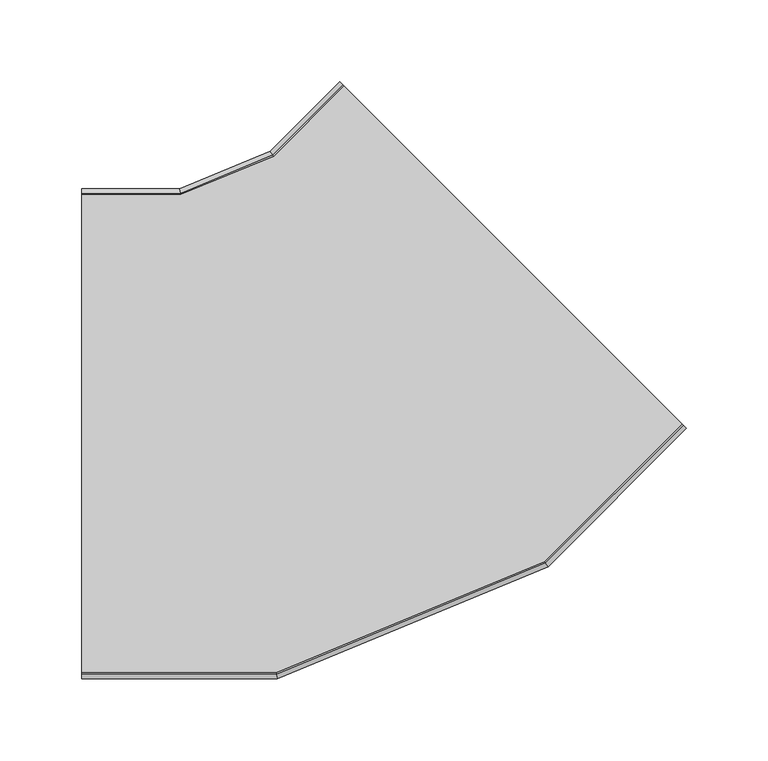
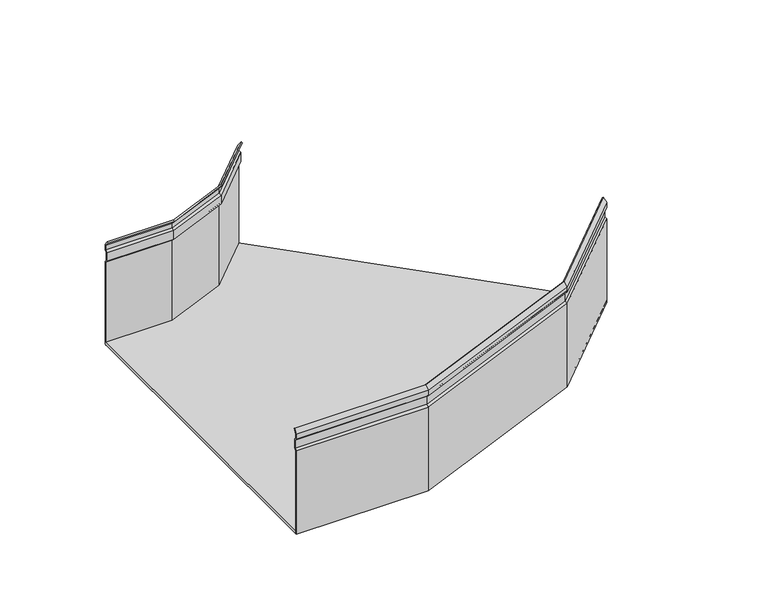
"""IFC4 building model written with IfcOpenShell, lengths in millimetres: cable carrier fitting geometry, CPERC45_Horizontal_Bend-Basortray : Basortray CPERC45-GS."""

import ifcopenshell
import ifcopenshell.guid

model = None  # the IFC model being written
_history = None  # IfcOwnerHistory: only IFC2X3 demands one
_inside = {}  # id of a spatial element -> (the spatial element, [elements in it])
_under = {}  # id of a project, library or spatial element -> (it, [spatial elements below it])
_declared = {}  # id of a project -> (the project, [libraries it declares])
_typed = {}  # id of a type object -> (the type object, [elements of that type])
_made_of = {}  # id of a material, layer set ... -> (it, [elements and type objects made of it])


def new_model(schema):
    """Start an empty IFC model of exactly this schema.

    Asked for "IFC4X3", IfcOpenShell would pick the latest addendum, in which some entities
    have other attributes; the version numbers below select the first issue.
    IFC2X3 requires an IfcOwnerHistory on every rooted entity: one is made here for all.
    """
    global model, _history
    if schema == "IFC4X3":
        model = ifcopenshell.file(schema_version=(4, 3, 0, 0))
    else:
        model = ifcopenshell.file(schema=schema)
    _inside.clear()
    _under.clear()
    _declared.clear()
    _typed.clear()
    _made_of.clear()
    _history = None
    if model.schema == "IFC2X3":
        org = make("IfcOrganization", Name="unknown")
        user = make(
            "IfcPersonAndOrganization",
            ThePerson=make("IfcPerson", FamilyName="unknown"),
            TheOrganization=org,
        )
        app = make(
            "IfcApplication",
            ApplicationDeveloper=org,
            Version="unknown",
            ApplicationFullName="unknown",
            ApplicationIdentifier="unknown",
        )
        _history = make(
            "IfcOwnerHistory",
            OwningUser=user,
            OwningApplication=app,
            ChangeAction="ADDED",
            CreationDate=0,
        )
    return model


def make(cls, **values):
    """One entity of the class cls with the attributes given. An attribute that is None is left unset."""
    return model.create_entity(
        cls, **{name: value for name, value in values.items() if value is not None}
    )


def rooted(cls, **values):
    """An entity with a GlobalId (a new one), such as an element, a storey or a relation."""
    return make(cls, GlobalId=ifcopenshell.guid.new(), OwnerHistory=_history, **values)


def si_unit(unit_type, name, prefix=None):
    """IfcSIUnit, for example si_unit("LENGTHUNIT", "METRE", prefix="MILLI")."""
    return make("IfcSIUnit", UnitType=unit_type, Prefix=prefix, Name=name)


def assignment(units):
    """IfcUnitAssignment: the units of a project."""
    return None if units is None else make("IfcUnitAssignment", Units=units)


def point(xyz):
    """IfcCartesianPoint."""
    return None if xyz is None else make("IfcCartesianPoint", Coordinates=xyz)


def direction(xyz):
    """IfcDirection."""
    return None if xyz is None else make("IfcDirection", DirectionRatios=xyz)


def frame(location, z_axis=None, x_axis=None):
    """IfcAxis2Placement3D, a coordinate frame: its origin and axes. An axis left out is left unset."""
    return make(
        "IfcAxis2Placement3D",
        Location=point(location),
        Axis=direction(z_axis),
        RefDirection=direction(x_axis),
    )


def origin():
    """The frame at (0, 0, 0) with its axes left unset."""
    return frame((0.0, 0.0, 0.0))


def place(relative_to, where):
    """IfcLocalPlacement: puts the frame where relative to a parent placement (None: the world)."""
    return make(
        "IfcLocalPlacement", PlacementRelTo=relative_to, RelativePlacement=where
    )


def context(
    kind, dimensions, precision=None, world=None, true_north=None, identifier=None
):
    """IfcGeometricRepresentationContext, for example the 3D "Model" context."""
    return make(
        "IfcGeometricRepresentationContext",
        ContextIdentifier=identifier,
        ContextType=kind,
        CoordinateSpaceDimension=dimensions,
        Precision=precision,
        WorldCoordinateSystem=world,
        TrueNorth=true_north,
    )


def project(units=None, contexts=None):
    """IfcProject with its units and contexts."""
    return rooted(
        "IfcProject",
        Name="project",
        RepresentationContexts=contexts,
        UnitsInContext=assignment(units),
    )


def spatial(cls, under=None, at=None, **own):
    """A site, building, storey or space (cls), placed at a placement, below another one or the project."""
    s = rooted(cls, ObjectPlacement=at, **own)
    if under is not None:
        _under.setdefault(under.id(), (under, []))[1].append(s)
    return s


def polyline(points):
    """IfcPolyline through the points."""
    return make("IfcPolyline", Points=[point(p) for p in points])


def outline(outer, holes=None, kind="AREA"):
    """IfcArbitraryClosedProfileDef: a profile drawn as a closed curve; with holes, ...WithVoids."""
    if holes is None:
        return make("IfcArbitraryClosedProfileDef", ProfileType=kind, OuterCurve=outer)
    return make(
        "IfcArbitraryProfileDefWithVoids",
        ProfileType=kind,
        OuterCurve=outer,
        InnerCurves=holes,
    )


def extrude(swept, where, along, depth):
    """IfcExtrudedAreaSolid: the profile swept, set in the frame where, extruded along a direction by depth."""
    return make(
        "IfcExtrudedAreaSolid",
        SweptArea=swept,
        Position=where,
        ExtrudedDirection=direction(along),
        Depth=depth,
    )


def faces_of(points, faces, orient=None, outer=None):
    """IfcFace entities. A face is a list of loops; a loop is a list of indices into points, from 0.

    orient and outer hold one flag for each loop. By default every Orientation is true, the
    first loop of a face is its IfcFaceOuterBound and the others are IfcFaceBound.
    """
    made = []
    for i, loops in enumerate(faces):
        bounds = []
        for j, loop in enumerate(loops):
            is_outer = j == 0 if outer is None else outer[i][j]
            bounds.append(
                make(
                    "IfcFaceOuterBound" if is_outer else "IfcFaceBound",
                    Bound=make("IfcPolyLoop", Polygon=[points[k] for k in loop]),
                    Orientation=True if orient is None else orient[i][j],
                )
            )
        made.append(make("IfcFace", Bounds=bounds))
    return made


def faceted_brep(points, faces, orient=None, outer=None, voids=None):
    """IfcFacetedBrep: a solid bounded by flat faces; with voids (closed shells), ...WithVoids."""
    shared = [point(p) for p in points]
    hull = make("IfcClosedShell", CfsFaces=faces_of(shared, faces, orient, outer))
    if voids is None:
        return make("IfcFacetedBrep", Outer=hull)
    return make(
        "IfcFacetedBrepWithVoids",
        Outer=hull,
        Voids=[
            make(cls, CfsFaces=faces_of(shared, fs, o, b)) for cls, fs, o, b in voids
        ],
    )


def shape(context_of_items, identifier, shape_type, items):
    """IfcShapeRepresentation: the items that make up one representation, for example the "Body"."""
    return make(
        "IfcShapeRepresentation",
        ContextOfItems=context_of_items,
        RepresentationIdentifier=identifier,
        RepresentationType=shape_type,
        Items=items,
    )


def source(mapping_origin, context_of_items, identifier, shape_type, items):
    """IfcRepresentationMap: a shape defined once, which mapped items show again and again."""
    return make(
        "IfcRepresentationMap",
        MappingOrigin=mapping_origin,
        MappedRepresentation=shape(context_of_items, identifier, shape_type, items),
    )


def transform(
    local_origin,
    x_axis=None,
    y_axis=None,
    z_axis=None,
    scale=None,
    scale2=None,
    scale3=None,
    uniform=True,
):
    """IfcCartesianTransformationOperator3D, or its non-uniform kind. x_axis, y_axis, z_axis: its Axis1, 2, 3."""
    if uniform:
        return make(
            "IfcCartesianTransformationOperator3D",
            Axis1=direction(x_axis),
            Axis2=direction(y_axis),
            LocalOrigin=point(local_origin),
            Scale=scale,
            Axis3=direction(z_axis),
        )
    return make(
        "IfcCartesianTransformationOperator3DnonUniform",
        Axis1=direction(x_axis),
        Axis2=direction(y_axis),
        LocalOrigin=point(local_origin),
        Scale=scale,
        Axis3=direction(z_axis),
        Scale2=scale2,
        Scale3=scale3,
    )


def mapped(mapping_source, mapping_target):
    """IfcMappedItem: shows the shape of a source again, moved by a transform."""
    return make(
        "IfcMappedItem", MappingSource=mapping_source, MappingTarget=mapping_target
    )


def made_of(thing, what):
    """Note that an element or type object is made of a material, layer set ...; save() writes the relation."""
    if what is not None:
        _made_of.setdefault(what.id(), (what, []))[1].append(thing)
    return thing


def element(
    cls,
    number,
    at=None,
    inside=None,
    cuts=None,
    type_object=None,
    material=None,
    context=None,
    identifier="Body",
    shape_type=None,
    held_by="IfcProductDefinitionShape",
    body=None,
    shapes=None,
    **own,
):
    """One element of the class cls, such as IfcWall. Its Tag is "e" and its number.

    at: its placement. inside: the storey or other place that contains it. cuts: it is an
    opening in that element (IfcRelVoidsElement). A single representation is given by context,
    identifier, shape_type and body (its items); several are given by shapes. held_by: the class
    of the entity that holds the representations. save() writes the other relations.
    """
    e = rooted(cls, Tag="e%d" % number, ObjectPlacement=at, **own)
    if body is not None:
        shapes = [shape(context, identifier, shape_type, body)]
    if shapes is not None:
        e.Representation = make(held_by, Representations=shapes)
    if inside is not None:
        _inside.setdefault(inside.id(), (inside, []))[1].append(e)
    if cuts is not None:
        rooted(
            "IfcRelVoidsElement", RelatingBuildingElement=cuts, RelatedOpeningElement=e
        )
    if type_object is not None:
        _typed.setdefault(type_object.id(), (type_object, []))[1].append(e)
    return made_of(e, material)


def aggregate(whole, parts):
    """IfcRelAggregates: a whole, such as a stair, and the parts it consists of."""
    return rooted("IfcRelAggregates", RelatingObject=whole, RelatedObjects=parts)


def save(model, path):
    """Write the relations noted so far, then the file.

    IfcRelAggregates (storeys below a building ...), IfcRelContainedInSpatialStructure (elements
    in a storey), IfcRelDefinesByType, IfcRelAssociatesMaterial and IfcRelDeclares: one each for
    every whole, place, type object, material and project.
    """
    for whole, parts in _under.values():
        aggregate(whole, parts)
    for where, things in _inside.values():
        rooted(
            "IfcRelContainedInSpatialStructure",
            RelatedElements=things,
            RelatingStructure=where,
        )
    for kind, things in _typed.values():
        rooted("IfcRelDefinesByType", RelatedObjects=things, RelatingType=kind)
    for what, things in _made_of.values():
        rooted("IfcRelAssociatesMaterial", RelatedObjects=things, RelatingMaterial=what)
    for by, libraries in _declared.values():
        rooted("IfcRelDeclares", RelatingContext=by, RelatedDefinitions=libraries)
    model.write(path)


def cable_carrier_fitting_8f606e74(model_context):
    return source(origin(), model_context, "Body", "SolidModel", [
        faceted_brep([(165.9912132, -146.7446215, 30.0), (165.9912132, -146.7446215, -50.0), (165.2841064, -146.0375148, -50.0), (165.2841064, -146.0375148, 29.5857864), (164.1525896, -144.9059979, 31.1859929), (164.1525896, -144.9059979, 39.7070283), (165.2841064, -146.0375148, 41.3072348), (165.2841064, -146.0375148, 45.575184), (163.4295325, -144.1829408, 49.2843318), (164.0054577, -144.7588661, 50.0), (165.9912132, -146.7446215, 45.8930212), (165.9912132, -146.7446215, 40.8930212), (164.8596963, -145.6131047, 39.2928147), (164.8596963, -145.6131047, 31.6002065), (-204.0, -300.0, 30.0), (-204.0, -298.3997935, 31.6002065), (-204.0, -298.3997935, 39.2928147), (-204.0, -300.0, 40.8930212), (-204.0, -300.0, 45.8930212), (-204.0, -297.1917177, 50.0), (-204.0, -296.3772364, 49.2843318), (-204.0, -299.0, 45.575184), (-204.0, -299.0, 41.3072348), (-204.0, -297.3997935, 39.7070283), (-204.0, -297.3997935, 31.1859929), (-204.0, -299.0, 29.5857864), (-204.0, -299.0, -50.0), (-204.0, -300.0, -50.0), (-84.3262898, -300.0, 30.0), (-84.6445906, -298.3997935, 31.6002065), (-84.6445906, -298.3997935, 39.2928147), (-84.3262898, -300.0, 40.8930212), (-84.3262898, -300.0, 45.8930212), (-84.8848919, -297.1917177, 50.0), (-85.0469023, -296.3772364, 49.2843318), (-84.5252022, -299.0, 45.575184), (-84.5252022, -299.0, 41.3072348), (-84.843503, -297.3997935, 39.7070283), (-84.843503, -297.3997935, 31.1859929), (-84.5252022, -299.0, 29.5857864), (-84.5252022, -299.0, -50.0), (-84.3262898, -300.0, -50.0), (81.3691212, -231.3667136, 30.0), (81.3691212, -231.3667136, -50.0), (80.8026667, -230.5189545, -50.0), (80.8026667, -230.5189545, 29.5857864), (79.8962225, -229.162365, 31.1859929), (79.8962225, -229.162365, 39.7070283), (80.8026667, -230.5189545, 41.3072348), (80.8026667, -230.5189545, 45.575184), (79.3169904, -228.2954829, 49.2843318), (79.778357, -228.9859668, 50.0), (81.3691212, -231.3667136, 45.8930212), (81.3691212, -231.3667136, 40.8930212), (80.462677, -230.010124, 39.2928147), (80.462677, -230.010124, 31.6002065)], [[[0, 1, 2, 3, 4, 5, 6, 7, 8, 9, 10, 11, 12, 13]], [[14, 15, 16, 17, 18, 19, 20, 21, 22, 23, 24, 25, 26, 27]], [[28, 29, 15, 14]], [[29, 30, 16, 15]], [[30, 31, 17, 16]], [[31, 32, 18, 17]], [[32, 33, 19, 18]], [[33, 34, 20, 19]], [[34, 35, 21, 20]], [[35, 36, 22, 21]], [[36, 37, 23, 22]], [[37, 38, 24, 23]], [[38, 39, 25, 24]], [[39, 40, 26, 25]], [[41, 28, 14, 27]], [[1, 0, 42, 43]], [[2, 1, 43, 41, 27, 26, 40, 44]], [[3, 2, 44, 45]], [[4, 3, 45, 46]], [[5, 4, 46, 47]], [[6, 5, 47, 48]], [[7, 6, 48, 49]], [[8, 7, 49, 50]], [[9, 8, 50, 51]], [[10, 9, 51, 52]], [[11, 10, 52, 53]], [[12, 11, 53, 54]], [[13, 12, 54, 55]], [[0, 13, 55, 42]], [[43, 42, 28, 41]], [[45, 44, 40, 39]], [[46, 45, 39, 38]], [[47, 46, 38, 37]], [[48, 47, 37, 36]], [[49, 48, 36, 35]], [[50, 49, 35, 34]], [[51, 50, 34, 33]], [[52, 51, 33, 32]], [[53, 52, 32, 31]], [[54, 53, 31, 30]], [[55, 54, 30, 29]], [[42, 55, 29, 28]]]),
        extrude(outline(polyline([(-204.0, -300.0), (-204.0, 0.0), (-144.0, 0.0), (-88.567228, 22.9610059), (-46.1408212, 65.3874128), (165.9912132, -146.7446215), (81.3691212, -231.3667136), (-84.3262898, -300.0), (-204.0, -300.0)])), frame((0.0, 0.0, -50.0), z_axis=(0.0, 0.0, 1.0), x_axis=(1.0, 0.0, 0.0)), (0.0, 0.0, 1.0), 2.54),
        faceted_brep([(-46.1408212, 65.3874128, 30.0), (-45.0093043, 64.255896, 31.6002065), (-45.0093043, 64.255896, 39.2928147), (-46.1408212, 65.3874128, 40.8930212), (-46.1408212, 65.3874128, 45.8930212), (-44.1550657, 63.4016573, 50.0), (-43.5791405, 62.8257321, 49.2843318), (-45.4337144, 64.680306, 45.575184), (-45.4337144, 64.680306, 41.3072348), (-44.3021976, 63.5487892, 39.7070283), (-44.3021976, 63.5487892, 31.1859929), (-45.4337144, 64.680306, 29.5857864), (-45.4337144, 64.680306, -50.0), (-46.1408212, 65.3874128, -50.0), (-88.567228, 22.9610059, 30.0), (-87.6607839, 21.6044164, 31.6002065), (-87.6607839, 21.6044164, 39.2928147), (-88.567228, 22.9610059, 40.8930212), (-88.567228, 22.9610059, 45.8930212), (-86.9764639, 20.5802592, 50.0), (-86.5150973, 19.8897752, 49.2843318), (-88.0007736, 22.1132469, 45.575184), (-88.0007736, 22.1132469, 41.3072348), (-87.0943294, 20.7566573, 39.7070283), (-87.0943294, 20.7566573, 31.1859929), (-88.0007736, 22.1132469, 29.5857864), (-88.0007736, 22.1132469, -50.0), (-143.8010876, -1.0, -50.0), (-204.0, -1.0, -50.0), (-204.0, 0.0, -50.0), (-144.0, 0.0, -50.0), (-88.567228, 22.9610059, -50.0), (-144.0, 0.0, 30.0), (-143.6816991, -1.6002065, 31.6002065), (-143.6816991, -1.6002065, 39.2928147), (-144.0, 0.0, 40.8930212), (-144.0, 0.0, 45.8930212), (-143.4413979, -2.8082823, 50.0), (-143.2793875, -3.6227636, 49.2843318), (-143.8010876, -1.0, 45.575184), (-143.8010876, -1.0, 41.3072348), (-143.4827868, -2.6002065, 39.7070283), (-143.4827868, -2.6002065, 31.1859929), (-143.8010876, -1.0, 29.5857864), (-204.0, 0.0, 30.0), (-204.0, -1.0, 29.5857864), (-204.0, -2.6002065, 31.1859929), (-204.0, -2.6002065, 39.7070283), (-204.0, -1.0, 41.3072348), (-204.0, -1.0, 45.575184), (-204.0, -3.6227636, 49.2843318), (-204.0, -2.8082823, 50.0), (-204.0, 0.0, 45.8930212), (-204.0, 0.0, 40.8930212), (-204.0, -1.6002065, 39.2928147), (-204.0, -1.6002065, 31.6002065)], [[[0, 1, 2, 3, 4, 5, 6, 7, 8, 9, 10, 11, 12, 13]], [[1, 0, 14, 15]], [[2, 1, 15, 16]], [[3, 2, 16, 17]], [[4, 3, 17, 18]], [[5, 4, 18, 19]], [[6, 5, 19, 20]], [[7, 6, 20, 21]], [[8, 7, 21, 22]], [[9, 8, 22, 23]], [[10, 9, 23, 24]], [[11, 10, 24, 25]], [[12, 11, 25, 26]], [[13, 12, 26, 27, 28, 29, 30, 31]], [[0, 13, 31, 14]], [[15, 14, 32, 33]], [[16, 15, 33, 34]], [[17, 16, 34, 35]], [[18, 17, 35, 36]], [[19, 18, 36, 37]], [[20, 19, 37, 38]], [[21, 20, 38, 39]], [[22, 21, 39, 40]], [[23, 22, 40, 41]], [[24, 23, 41, 42]], [[25, 24, 42, 43]], [[26, 25, 43, 27]], [[14, 31, 30, 32]], [[44, 29, 28, 45, 46, 47, 48, 49, 50, 51, 52, 53, 54, 55]], [[33, 32, 44, 55]], [[34, 33, 55, 54]], [[35, 34, 54, 53]], [[36, 35, 53, 52]], [[37, 36, 52, 51]], [[38, 37, 51, 50]], [[39, 38, 50, 49]], [[40, 39, 49, 48]], [[41, 40, 48, 47]], [[42, 41, 47, 46]], [[43, 42, 46, 45]], [[27, 43, 45, 28]], [[32, 30, 29, 44]]]),
    ])


if __name__ == "__main__":
    model = new_model("IFC4")
    model_context = context("Model", 3, world=origin())
    ifc_project = project(units=[si_unit("LENGTHUNIT", "METRE", prefix="MILLI")], contexts=[model_context])
    site = spatial("IfcSite", under=ifc_project)
    building = spatial("IfcBuilding", under=site)
    placement = place(None, origin())
    cable_carrier_fitting_shape = cable_carrier_fitting_8f606e74(model_context)
    element("IfcCableCarrierFitting", 1, ObjectType="CPERC45_Horizontal_Bend-Basortray : Basortray CPERC45-GS", at=placement, inside=building, context=model_context, shape_type="MappedRepresentation", body=[
        mapped(cable_carrier_fitting_shape, transform((0.0, 0.0, 0.0), x_axis=(1.0, 0.0, 0.0), y_axis=(0.0, 1.0, 0.0), z_axis=(0.0, 0.0, 1.0))),
    ])
    save(model, "model.ifc")
